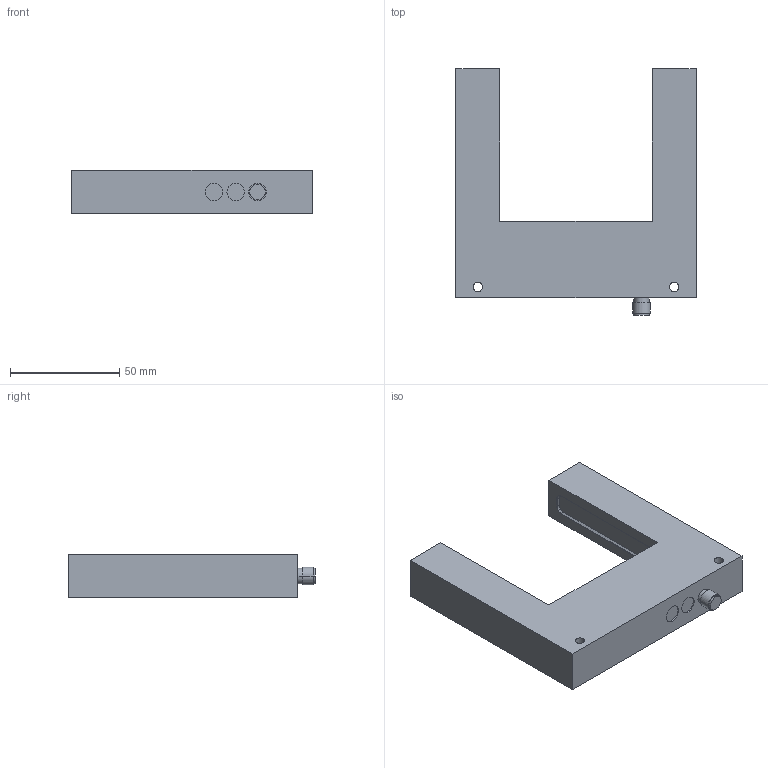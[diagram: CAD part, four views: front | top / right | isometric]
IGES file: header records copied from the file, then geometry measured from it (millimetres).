
Start section: IMSI TurboCAD v14.0
Global section: author: NULL; organization: NULL; date: 20141127.115345; units: millimetre
Bounding box: 110 x 113 x 20 mm (x, y, z)
Surface area: 25586.5 mm2 (no closed solid volume)
Topology: 0 solids, 0 shells, 59 faces, 288 edges, 288 vertices
Faces by surface type: revolution 30, extrusion 29
